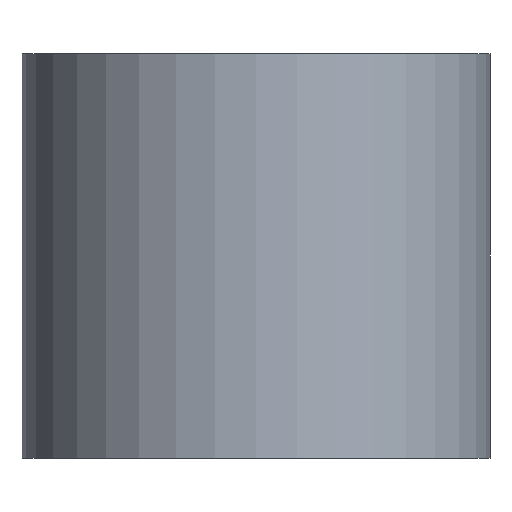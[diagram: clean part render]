
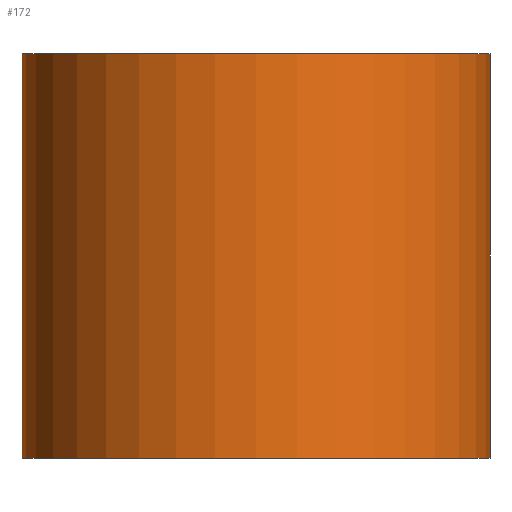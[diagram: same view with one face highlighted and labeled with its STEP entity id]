
A CAD part, front view. The second image highlights one B-rep face of the part: STEP entity #172.
In plain terms, the highlighted cylindrical face has radius 50.8 mm (diameter 101.6 mm), a partial arc.
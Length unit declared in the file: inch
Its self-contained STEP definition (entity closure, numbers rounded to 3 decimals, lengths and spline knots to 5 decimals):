
#131=CARTESIAN_POINT('',(0.0,0.0,0.0));
#132=DIRECTION('',(0.0,0.0,1.0));
#133=DIRECTION('',(-1.0,0.0,0.0));
#134=AXIS2_PLACEMENT_3D('',#131,#132,#133);
#135=CYLINDRICAL_SURFACE('',#134,2.0);
#136=CARTESIAN_POINT('',(-2.0,0.,-1.73));
#137=VERTEX_POINT('',#136);
#138=CARTESIAN_POINT('',(-2.0,0.,1.73));
#139=VERTEX_POINT('',#138);
#140=CARTESIAN_POINT('',(-2.0,0.,-1.73));
#141=DIRECTION('',(0.0,0.0,1.0));
#142=VECTOR('',#141,3.46);
#143=LINE('',#140,#142);
#144=EDGE_CURVE('',#137,#139,#143,.T.);
#145=ORIENTED_EDGE('',*,*,#144,.F.);
#146=CARTESIAN_POINT('',(2.0,0.,-1.73));
#147=VERTEX_POINT('',#146);
#148=CARTESIAN_POINT('',(0.0,0.0,-1.73));
#149=DIRECTION('',(0.0,0.0,1.0));
#150=DIRECTION('',(-1.0,0.0,0.0));
#151=AXIS2_PLACEMENT_3D('',#148,#149,#150);
#152=CIRCLE('',#151,2.0);
#153=EDGE_CURVE('',#137,#147,#152,.T.);
#154=ORIENTED_EDGE('',*,*,#153,.T.);
#155=CARTESIAN_POINT('',(2.0,0.,1.73));
#156=VERTEX_POINT('',#155);
#157=CARTESIAN_POINT('',(2.0,0.,1.73));
#158=DIRECTION('',(0.0,0.0,-1.0));
#159=VECTOR('',#158,3.46);
#160=LINE('',#157,#159);
#161=EDGE_CURVE('',#156,#147,#160,.T.);
#162=ORIENTED_EDGE('',*,*,#161,.F.);
#163=CARTESIAN_POINT('',(0.0,0.0,1.73));
#164=DIRECTION('',(0.0,0.0,-1.0));
#165=DIRECTION('',(-1.0,0.0,0.0));
#166=AXIS2_PLACEMENT_3D('',#163,#164,#165);
#167=CIRCLE('',#166,2.0);
#168=EDGE_CURVE('',#156,#139,#167,.T.);
#169=ORIENTED_EDGE('',*,*,#168,.T.);
#170=EDGE_LOOP('',(#145,#154,#162,#169));
#171=FACE_OUTER_BOUND('',#170,.T.);
#172=ADVANCED_FACE('',(#171),#135,.T.);
